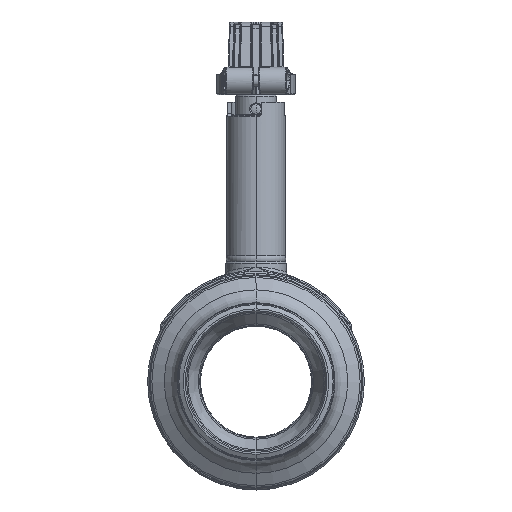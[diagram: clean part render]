
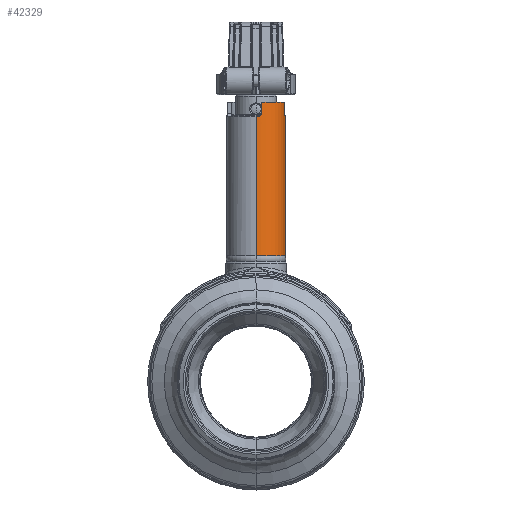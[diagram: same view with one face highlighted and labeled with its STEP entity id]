
A CAD part, left-side view. The second image highlights one B-rep face of the part: STEP entity #42329.
In plain terms, the highlighted cylindrical face has radius 16.85 mm (diameter 33.7 mm), a partial arc.
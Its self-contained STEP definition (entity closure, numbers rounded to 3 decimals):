
#12057=CARTESIAN_POINT('',(-16.581,-3.,154.5));
#12058=CARTESIAN_POINT('',(-16.581,-3.,154.466));
#12059=CARTESIAN_POINT('',(-16.581,-2.998,
154.399));
#12060=CARTESIAN_POINT('',(-16.583,-2.987,
154.298));
#12061=CARTESIAN_POINT('',(-16.586,-2.97,
154.197));
#12062=CARTESIAN_POINT('',(-16.59,-2.946,
154.099));
#12063=CARTESIAN_POINT('',(-16.596,-2.916,
154.001));
#12064=CARTESIAN_POINT('',(-16.602,-2.879,
153.906));
#12065=CARTESIAN_POINT('',(-16.61,-2.835,
153.814));
#12066=CARTESIAN_POINT('',(-16.618,-2.785,
153.725));
#12067=CARTESIAN_POINT('',(-16.627,-2.73,
153.639));
#12068=CARTESIAN_POINT('',(-16.638,-2.668,
153.557));
#12069=CARTESIAN_POINT('',(-16.648,-2.601,
153.479));
#12070=CARTESIAN_POINT('',(-16.659,-2.528,
153.406));
#12071=CARTESIAN_POINT('',(-16.671,-2.451,
153.338));
#12072=CARTESIAN_POINT('',(-16.683,-2.369,
153.276));
#12073=CARTESIAN_POINT('',(-16.695,-2.283,
153.219));
#12074=CARTESIAN_POINT('',(-16.707,-2.193,
153.168));
#12075=CARTESIAN_POINT('',(-16.719,-2.1,
153.124));
#12076=CARTESIAN_POINT('',(-16.73,-2.004,
153.086));
#12077=CARTESIAN_POINT('',(-16.742,-1.906,
153.055));
#12078=CARTESIAN_POINT('',(-16.753,-1.806,
153.03));
#12079=CARTESIAN_POINT('',(-16.764,-1.705,
153.013));
#12080=CARTESIAN_POINT('',(-16.774,-1.603,
153.002));
#12081=CARTESIAN_POINT('',(-16.78,-1.534,153.));
#12082=CARTESIAN_POINT('',(-16.783,-1.5,153.));
#12093=CARTESIAN_POINT('',(0.,0.,161.));
#12094=DIRECTION('',(0.,0.,-1.));
#12095=DIRECTION('',(-0.178,-0.984,0.));
#12096=AXIS2_PLACEMENT_3D('',#12093,#12094,#12095);
#12137=CARTESIAN_POINT('',(-1.5,-16.783,153.));
#12138=CARTESIAN_POINT('',(-1.534,-16.78,153.));
#12139=CARTESIAN_POINT('',(-1.603,-16.774,
153.002));
#12140=CARTESIAN_POINT('',(-1.705,-16.764,
153.013));
#12141=CARTESIAN_POINT('',(-1.806,-16.753,
153.03));
#12142=CARTESIAN_POINT('',(-1.906,-16.742,
153.055));
#12143=CARTESIAN_POINT('',(-2.004,-16.73,
153.086));
#12144=CARTESIAN_POINT('',(-2.1,-16.719,
153.124));
#12145=CARTESIAN_POINT('',(-2.193,-16.707,
153.168));
#12146=CARTESIAN_POINT('',(-2.283,-16.695,
153.219));
#12147=CARTESIAN_POINT('',(-2.369,-16.683,
153.276));
#12148=CARTESIAN_POINT('',(-2.451,-16.671,
153.338));
#12149=CARTESIAN_POINT('',(-2.528,-16.659,
153.406));
#12150=CARTESIAN_POINT('',(-2.601,-16.648,
153.479));
#12151=CARTESIAN_POINT('',(-2.668,-16.638,
153.557));
#12152=CARTESIAN_POINT('',(-2.73,-16.627,
153.639));
#12153=CARTESIAN_POINT('',(-2.785,-16.618,
153.725));
#12154=CARTESIAN_POINT('',(-2.835,-16.61,
153.814));
#12155=CARTESIAN_POINT('',(-2.879,-16.602,
153.906));
#12156=CARTESIAN_POINT('',(-2.916,-16.596,
154.001));
#12157=CARTESIAN_POINT('',(-2.946,-16.59,
154.099));
#12158=CARTESIAN_POINT('',(-2.97,-16.586,
154.197));
#12159=CARTESIAN_POINT('',(-2.987,-16.583,
154.298));
#12160=CARTESIAN_POINT('',(-2.998,-16.581,
154.399));
#12161=CARTESIAN_POINT('',(-3.,-16.581,154.466));
#12162=CARTESIAN_POINT('',(-3.,-16.581,154.5));
#12164=CARTESIAN_POINT('',(0.,0.,72.65));
#12165=DIRECTION('',(0.,0.,-1.));
#12166=DIRECTION('',(1.,0.,0.));
#12167=AXIS2_PLACEMENT_3D('',#12164,#12165,#12166);
#12169=CARTESIAN_POINT('',(0.,0.,153.));
#12170=DIRECTION('',(0.,0.,-1.));
#12171=DIRECTION('',(-0.996,-0.089,0.));
#12172=AXIS2_PLACEMENT_3D('',#12169,#12170,#12171);
#12174=DIRECTION('',(0.,0.,-1.));
#12175=VECTOR('',#12174,6.5);
#12176=CARTESIAN_POINT('',(-16.581,-3.,161.));
#12177=LINE('',#12176,#12175);
#12178=DIRECTION('',(0.,0.,-1.));
#12179=VECTOR('',#12178,6.5);
#12180=CARTESIAN_POINT('',(-3.,-16.581,161.));
#12181=LINE('',#12180,#12179);
#12182=CARTESIAN_POINT('',(0.,0.,153.));
#12183=DIRECTION('',(0.,0.,-1.));
#12184=DIRECTION('',(1.,0.,0.));
#12185=AXIS2_PLACEMENT_3D('',#12182,#12183,#12184);
#12230=DIRECTION('',(0.,0.,1.));
#12231=VECTOR('',#12230,80.35);
#12232=CARTESIAN_POINT('',(16.85,0.,72.65));
#12233=LINE('',#12232,#12231);
#12252=DIRECTION('',(0.,0.,1.));
#12253=VECTOR('',#12252,80.35);
#12254=CARTESIAN_POINT('',(-16.85,0.,72.65));
#12255=LINE('',#12254,#12253);
#19899=CARTESIAN_POINT('',(-3.,-16.581,161.));
#19900=CARTESIAN_POINT('',(-16.581,-3.,161.));
#19901=VERTEX_POINT('',#19899);
#19902=VERTEX_POINT('',#19900);
#19935=CARTESIAN_POINT('',(16.85,0.,153.));
#19936=CARTESIAN_POINT('',(-1.5,-16.783,153.));
#19937=VERTEX_POINT('',#19935);
#19938=VERTEX_POINT('',#19936);
#19939=CARTESIAN_POINT('',(-16.783,-1.5,153.));
#19940=CARTESIAN_POINT('',(-16.85,0.,153.));
#19941=VERTEX_POINT('',#19939);
#19942=VERTEX_POINT('',#19940);
#19971=CARTESIAN_POINT('',(-3.,-16.581,154.5));
#19972=VERTEX_POINT('',#19971);
#19973=CARTESIAN_POINT('',(-16.581,-3.,154.5));
#19974=VERTEX_POINT('',#19973);
#20210=CARTESIAN_POINT('',(16.85,0.,72.65));
#20211=CARTESIAN_POINT('',(-16.85,0.,72.65));
#20212=VERTEX_POINT('',#20210);
#20213=VERTEX_POINT('',#20211);
#42308=CARTESIAN_POINT('',(0.,0.,165.5));
#42309=DIRECTION('',(0.,0.,-1.));
#42310=DIRECTION('',(-1.,0.,0.));
#42311=AXIS2_PLACEMENT_3D('',#42308,#42309,#42310);
#42312=CYLINDRICAL_SURFACE('',#42311,16.85);
#42314=ORIENTED_EDGE('',*,*,#42313,.T.);
#42316=ORIENTED_EDGE('',*,*,#42315,.T.);
#42317=ORIENTED_EDGE('',*,*,#42225,.F.);
#42318=ORIENTED_EDGE('',*,*,#42242,.F.);
#42320=ORIENTED_EDGE('',*,*,#42319,.F.);
#42321=ORIENTED_EDGE('',*,*,#42274,.F.);
#42322=ORIENTED_EDGE('',*,*,#42289,.T.);
#42323=ORIENTED_EDGE('',*,*,#42302,.F.);
#42324=ORIENTED_EDGE('',*,*,#42132,.F.);
#42326=ORIENTED_EDGE('',*,*,#42325,.F.);
#42327=EDGE_LOOP('',(#42314,#42316,#42317,#42318,#42320,#42321,#42322,#42323,
#42324,#42326));
#42328=FACE_OUTER_BOUND('',#42327,.F.);
#12083=B_SPLINE_CURVE_WITH_KNOTS('',3,(#12057,#12058,#12059,#12060,#12061,
#12062,#12063,#12064,#12065,#12066,#12067,#12068,#12069,#12070,#12071,#12072,
#12073,#12074,#12075,#12076,#12077,#12078,#12079,#12080,#12081,#12082),
.UNSPECIFIED.,.F.,.F.,(4,1,1,1,1,1,1,1,1,1,1,1,1,1,1,1,1,1,1,1,1,1,1,4),(0.,
0.043,0.087,0.13,0.174,
0.217,0.261,0.304,0.348,
0.391,0.435,0.478,0.522,
0.565,0.609,0.652,0.696,
0.739,0.783,0.826,0.87,
0.913,0.957,1.),.UNSPECIFIED.);
#12097=CIRCLE('',#12096,16.85);
#12163=B_SPLINE_CURVE_WITH_KNOTS('',3,(#12137,#12138,#12139,#12140,#12141,
#12142,#12143,#12144,#12145,#12146,#12147,#12148,#12149,#12150,#12151,#12152,
#12153,#12154,#12155,#12156,#12157,#12158,#12159,#12160,#12161,#12162),
.UNSPECIFIED.,.F.,.F.,(4,1,1,1,1,1,1,1,1,1,1,1,1,1,1,1,1,1,1,1,1,1,1,4),(0.,
0.043,0.087,0.13,0.174,
0.217,0.261,0.304,0.348,
0.391,0.435,0.478,0.522,
0.565,0.609,0.652,0.696,
0.739,0.783,0.826,0.87,
0.913,0.957,1.),.UNSPECIFIED.);
#12168=CIRCLE('',#12167,16.85);
#12173=CIRCLE('',#12172,16.85);
#12186=CIRCLE('',#12185,16.85);
#42132=EDGE_CURVE('',#19937,#19938,#12186,.T.);
#42225=EDGE_CURVE('',#19941,#19942,#12173,.T.);
#42242=EDGE_CURVE('',#19974,#19941,#12083,.T.);
#42274=EDGE_CURVE('',#19901,#19902,#12097,.T.);
#42289=EDGE_CURVE('',#19901,#19972,#12181,.T.);
#42302=EDGE_CURVE('',#19938,#19972,#12163,.T.);
#42313=EDGE_CURVE('',#20212,#20213,#12168,.T.);
#42315=EDGE_CURVE('',#20213,#19942,#12255,.T.);
#42319=EDGE_CURVE('',#19902,#19974,#12177,.T.);
#42325=EDGE_CURVE('',#20212,#19937,#12233,.T.);
#42329=ADVANCED_FACE('',(#42328),#42312,.T.);
